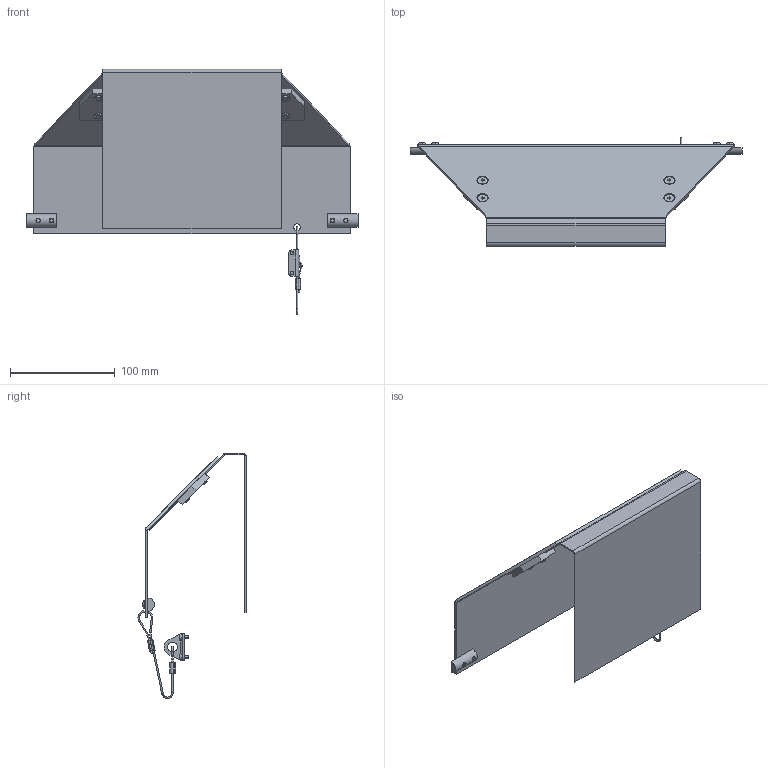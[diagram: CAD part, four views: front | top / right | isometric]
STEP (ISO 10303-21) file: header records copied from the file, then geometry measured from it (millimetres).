
FILE_DESCRIPTION((''),'2;1');
FILE_NAME('301342_ASM','2023-03-03T',('jenni.wallner'),(''),'PRO/ENGINEER BY PARAMETRIC TECHNOLOGY CORPORATION, 2012420','PRO/ENGINEER BY PARAMETRIC TECHNOLOGY CORPORATION, 2012420','');
FILE_SCHEMA(('CONFIG_CONTROL_DESIGN'));
Length unit declared in the file: inch
Products named in the file (11): 301288; 301297; 300774M; 300741M; 910408M; 930510M; 807-1086; 804-506; 807-1085; 920306M; 301342_ASM
Assembly tree (20 placements, depth 2):
  301342_ASM
    301288
    301297
    300774M  x2
    300741M  x2
    910408M  x4
    930510M  x4
    807-1086
    804-506
    807-1085  x2
    920306M  x2
Bounding box: 317.7 x 103.44 x 234.74 mm (x, y, z)
Volume: 203300.6 mm3; surface area: 207912.8 mm2
Topology: 20 solids, 28 shells, 400 faces, 944 edges, 596 vertices
Faces by surface type: plane 179, cylinder 141, cone 56, torus 14, bspline 10
Entity records: 7326 total; most frequent: CARTESIAN_POINT 1452, DIRECTION 1278, ORIENTED_EDGE 1080, EDGE_CURVE 548, AXIS2_PLACEMENT_3D 490, VERTEX_POINT 342, VECTOR 298, LINE 298
